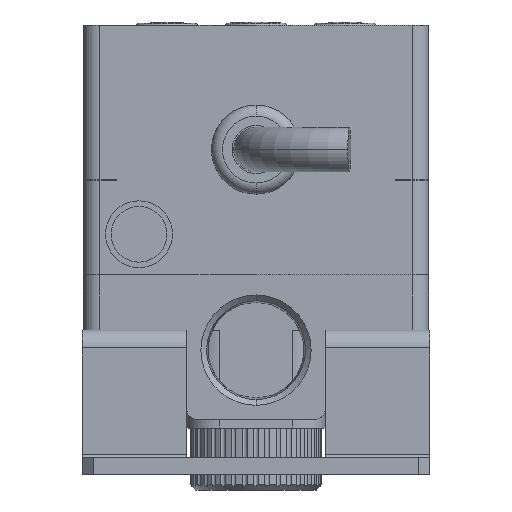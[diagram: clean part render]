
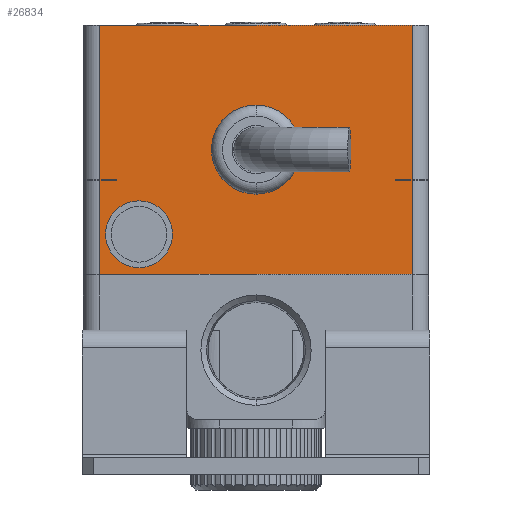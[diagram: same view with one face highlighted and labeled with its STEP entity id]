
A CAD part, front view. The second image highlights one B-rep face of the part: STEP entity #26834.
In plain terms, the highlighted planar face has unit normal (0, -1, 0).
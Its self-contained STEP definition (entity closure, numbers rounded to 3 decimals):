
#3435=DIRECTION('',(1.,0.,0.));
#3436=VECTOR('',#3435,28.);
#3437=CARTESIAN_POINT('',(-14.,0.,-8.5));
#3438=LINE('',#3437,#3436);
#3562=DIRECTION('',(-1.,0.,0.));
#3563=VECTOR('',#3562,1.5);
#3564=CARTESIAN_POINT('',(14.,0.,0.));
#3565=LINE('',#3564,#3563);
#3578=DIRECTION('',(-1.,0.,0.));
#3579=VECTOR('',#3578,1.5);
#3580=CARTESIAN_POINT('',(-12.5,0.,0.));
#3581=LINE('',#3580,#3579);
#3618=DIRECTION('',(0.,0.,1.));
#3619=VECTOR('',#3618,0.05);
#3620=CARTESIAN_POINT('',(-12.5,0.,-0.05));
#3621=LINE('',#3620,#3619);
#3622=DIRECTION('',(0.,0.,1.));
#3623=VECTOR('',#3622,0.05);
#3624=CARTESIAN_POINT('',(12.5,0.,-0.05));
#3625=LINE('',#3624,#3623);
#3626=DIRECTION('',(1.,0.,0.));
#3627=VECTOR('',#3626,1.5);
#3628=CARTESIAN_POINT('',(12.5,0.,-0.05));
#3629=LINE('',#3628,#3627);
#3630=DIRECTION('',(0.,0.,1.));
#3631=VECTOR('',#3630,8.45);
#3632=CARTESIAN_POINT('',(-14.,0.,-8.5));
#3633=LINE('',#3632,#3631);
#3634=DIRECTION('',(1.,0.,0.));
#3635=VECTOR('',#3634,1.5);
#3636=CARTESIAN_POINT('',(-14.,0.,-0.05));
#3637=LINE('',#3636,#3635);
#3638=CARTESIAN_POINT('',(0.,0.,2.7));
#3639=DIRECTION('',(0.,-1.,0.));
#3640=DIRECTION('',(0.,0.,-1.));
#3641=AXIS2_PLACEMENT_3D('',#3638,#3639,#3640);
#3643=CARTESIAN_POINT('',(0.,0.,2.7));
#3644=DIRECTION('',(0.,-1.,0.));
#3645=DIRECTION('',(0.,0.,1.));
#3646=AXIS2_PLACEMENT_3D('',#3643,#3644,#3645);
#3648=CARTESIAN_POINT('',(-10.5,0.,-4.9));
#3649=DIRECTION('',(0.,-1.,0.));
#3650=DIRECTION('',(1.,0.,0.));
#3651=AXIS2_PLACEMENT_3D('',#3648,#3649,#3650);
#3653=CARTESIAN_POINT('',(-10.5,0.,-4.9));
#3654=DIRECTION('',(0.,-1.,0.));
#3655=DIRECTION('',(-1.,0.,0.));
#3656=AXIS2_PLACEMENT_3D('',#3653,#3654,#3655);
#3698=DIRECTION('',(0.,0.,1.));
#3699=VECTOR('',#3698,13.85);
#3700=CARTESIAN_POINT('',(-14.,0.,0.));
#3701=LINE('',#3700,#3699);
#3752=DIRECTION('',(0.,0.,-1.));
#3753=VECTOR('',#3752,13.85);
#3754=CARTESIAN_POINT('',(14.,0.,13.85));
#3755=LINE('',#3754,#3753);
#3774=DIRECTION('',(1.,0.,0.));
#3775=VECTOR('',#3774,28.);
#3776=CARTESIAN_POINT('',(-14.,0.,13.85));
#3777=LINE('',#3776,#3775);
#9502=DIRECTION('',(0.,0.,1.));
#9503=VECTOR('',#9502,8.45);
#9504=CARTESIAN_POINT('',(14.,0.,-8.5));
#9505=LINE('',#9504,#9503);
#18808=CARTESIAN_POINT('',(-14.,0.,-8.5));
#18809=VERTEX_POINT('',#18808);
#18810=CARTESIAN_POINT('',(14.,0.,-8.5));
#18811=VERTEX_POINT('',#18810);
#18822=CARTESIAN_POINT('',(-7.5,0.,-4.9));
#18823=CARTESIAN_POINT('',(-13.5,0.,-4.9));
#18824=VERTEX_POINT('',#18822);
#18825=VERTEX_POINT('',#18823);
#18838=CARTESIAN_POINT('',(0.,0.,-1.3));
#18839=VERTEX_POINT('',#18838);
#18840=CARTESIAN_POINT('',(0.,0.,6.7));
#18841=VERTEX_POINT('',#18840);
#18848=CARTESIAN_POINT('',(-14.,0.,-0.05));
#18849=VERTEX_POINT('',#18848);
#18850=CARTESIAN_POINT('',(-12.5,0.,-0.05));
#18851=VERTEX_POINT('',#18850);
#18852=CARTESIAN_POINT('',(12.5,0.,-0.05));
#18853=CARTESIAN_POINT('',(14.,0.,-0.05));
#18854=VERTEX_POINT('',#18852);
#18855=VERTEX_POINT('',#18853);
#18878=CARTESIAN_POINT('',(-14.,0.,0.));
#18879=CARTESIAN_POINT('',(-14.,0.,13.85));
#18880=VERTEX_POINT('',#18878);
#18881=VERTEX_POINT('',#18879);
#18886=CARTESIAN_POINT('',(14.,0.,13.85));
#18887=CARTESIAN_POINT('',(14.,0.,0.));
#18888=VERTEX_POINT('',#18886);
#18889=VERTEX_POINT('',#18887);
#18931=CARTESIAN_POINT('',(12.5,0.,0.));
#18933=VERTEX_POINT('',#18931);
#18935=CARTESIAN_POINT('',(-12.5,0.,0.));
#18937=VERTEX_POINT('',#18935);
#26797=CARTESIAN_POINT('',(-14.,0.,-8.5));
#26798=DIRECTION('',(0.,-1.,0.));
#26799=DIRECTION('',(1.,0.,0.));
#26800=AXIS2_PLACEMENT_3D('',#26797,#26798,#26799);
#26801=PLANE('',#26800);
#26803=ORIENTED_EDGE('',*,*,#26802,.T.);
#26804=ORIENTED_EDGE('',*,*,#26773,.T.);
#26806=ORIENTED_EDGE('',*,*,#26805,.T.);
#26808=ORIENTED_EDGE('',*,*,#26807,.T.);
#26810=ORIENTED_EDGE('',*,*,#26809,.T.);
#26811=ORIENTED_EDGE('',*,*,#26757,.T.);
#26812=ORIENTED_EDGE('',*,*,#26746,.F.);
#26813=ORIENTED_EDGE('',*,*,#26715,.T.);
#26815=ORIENTED_EDGE('',*,*,#26814,.F.);
#26816=ORIENTED_EDGE('',*,*,#26630,.F.);
#26818=ORIENTED_EDGE('',*,*,#26817,.T.);
#26819=ORIENTED_EDGE('',*,*,#26700,.T.);
#26820=EDGE_LOOP('',(#26803,#26804,#26806,#26808,#26810,#26811,#26812,#26813,
#26815,#26816,#26818,#26819));
#26821=FACE_OUTER_BOUND('',#26820,.F.);
#26823=ORIENTED_EDGE('',*,*,#26822,.T.);
#26825=ORIENTED_EDGE('',*,*,#26824,.T.);
#26826=EDGE_LOOP('',(#26823,#26825));
#26827=FACE_BOUND('',#26826,.F.);
#26829=ORIENTED_EDGE('',*,*,#26828,.T.);
#26831=ORIENTED_EDGE('',*,*,#26830,.T.);
#26832=EDGE_LOOP('',(#26829,#26831));
#26833=FACE_BOUND('',#26832,.F.);
#26834=ADVANCED_FACE('',(#26821,#26827,#26833),#26801,.T.);
#3642=CIRCLE('',#3641,4.);
#3647=CIRCLE('',#3646,4.);
#3652=CIRCLE('',#3651,3.);
#3657=CIRCLE('',#3656,3.);
#26630=EDGE_CURVE('',#18809,#18811,#3438,.T.);
#26700=EDGE_CURVE('',#18849,#18851,#3637,.T.);
#26715=EDGE_CURVE('',#18854,#18855,#3629,.T.);
#26746=EDGE_CURVE('',#18854,#18933,#3625,.T.);
#26757=EDGE_CURVE('',#18889,#18933,#3565,.T.);
#26773=EDGE_CURVE('',#18937,#18880,#3581,.T.);
#26802=EDGE_CURVE('',#18851,#18937,#3621,.T.);
#26805=EDGE_CURVE('',#18880,#18881,#3701,.T.);
#26807=EDGE_CURVE('',#18881,#18888,#3777,.T.);
#26809=EDGE_CURVE('',#18888,#18889,#3755,.T.);
#26814=EDGE_CURVE('',#18811,#18855,#9505,.T.);
#26817=EDGE_CURVE('',#18809,#18849,#3633,.T.);
#26822=EDGE_CURVE('',#18839,#18841,#3642,.T.);
#26824=EDGE_CURVE('',#18841,#18839,#3647,.T.);
#26828=EDGE_CURVE('',#18824,#18825,#3652,.T.);
#26830=EDGE_CURVE('',#18825,#18824,#3657,.T.);
